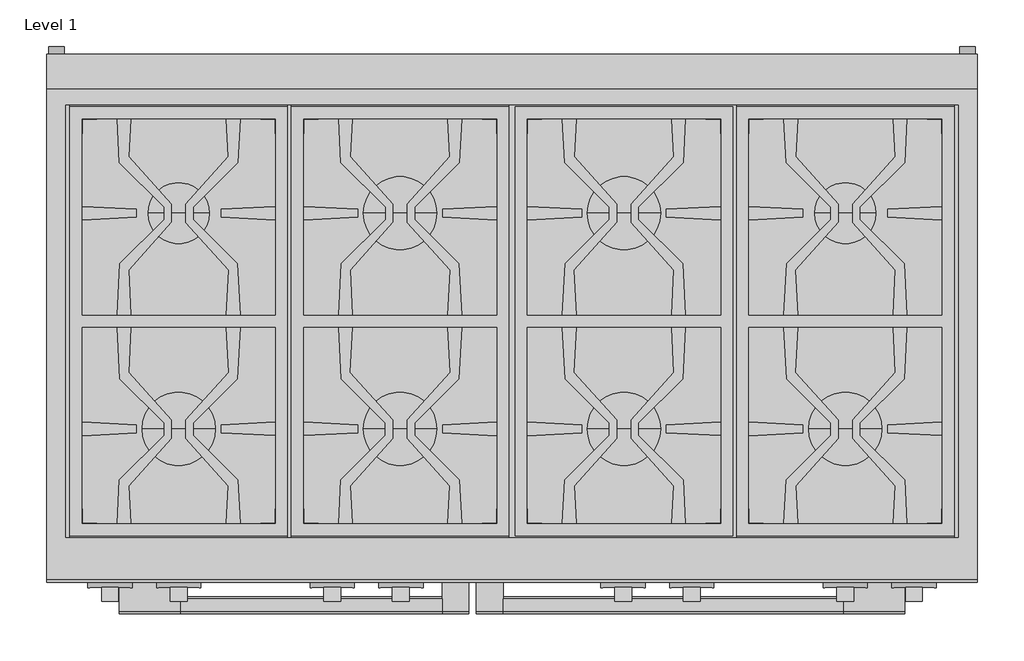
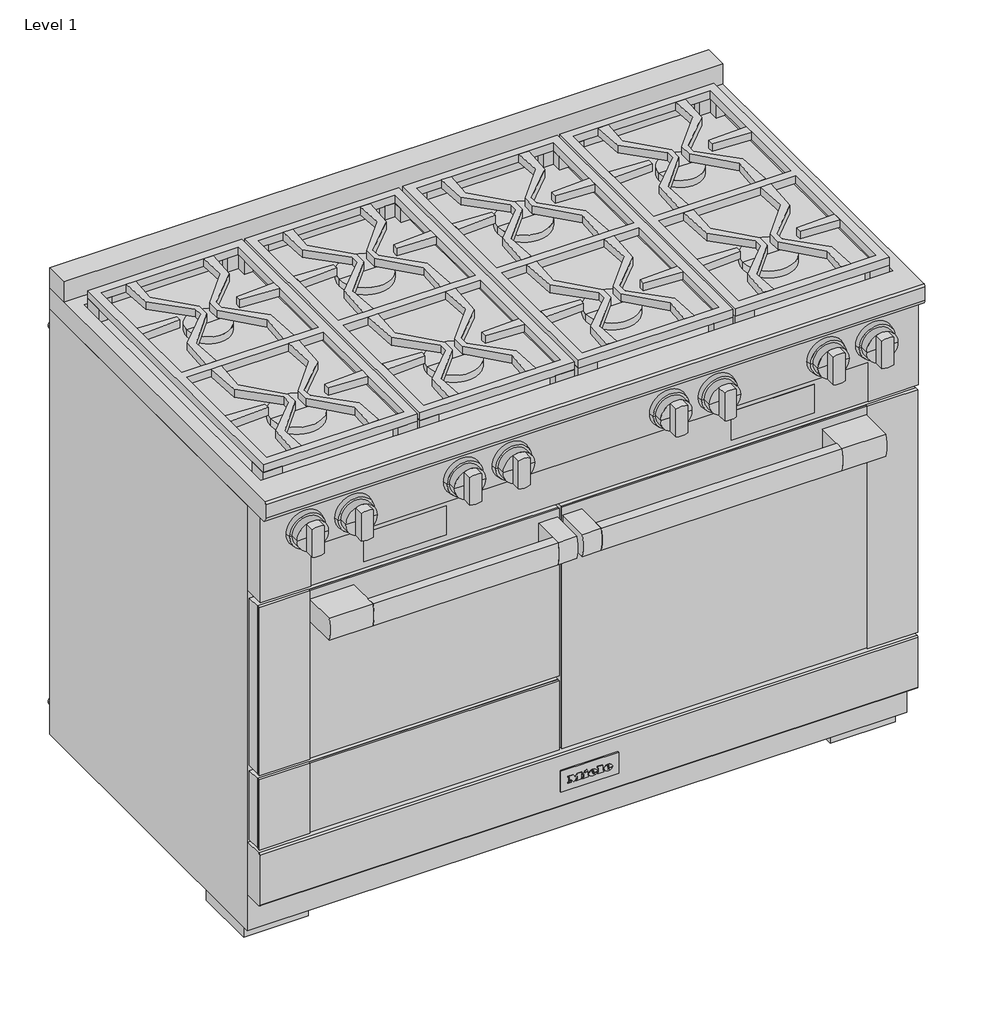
# One storey: 1 proxy.
"""IFC4 building model written with IfcOpenShell, lengths in millimetres."""

from ifc_helpers import new_model, si_unit, origin, place, context, project, spatial, transform, mapped, element, save
from components import specialty_equipment_d0c5894f, specialty_equipment_6386a448, specialty_equipment_bac1f9ac

model = new_model("IFC4")

# Units and contexts
model_context = context("Model", 3, world=origin())
ifc_project = project(units=[si_unit("LENGTHUNIT", "METRE", prefix="MILLI")], contexts=[model_context])

# Site, building, storey
site = spatial("IfcSite", under=ifc_project)
building = spatial("IfcBuilding", under=site)
storey = spatial("IfcBuildingStorey", under=building, Name="Level 1", Elevation=0.0)

# Proxy
placement = place(None, origin())
specialty_equipment_shape = specialty_equipment_d0c5894f(model_context)
specialty_equipment_2_shape = specialty_equipment_6386a448(model_context)
specialty_equipment_3_shape = specialty_equipment_bac1f9ac(model_context)
element("IfcBuildingElementProxy", 1, Name="11791680_USA_HR1954-3LP_EDST-CLS : 25195482_USA_11791680_HR1954-3LP_EDST-CLS", ObjectType="11791680_USA_HR1954-3LP_EDST-CLS : 25195482_USA_11791680_HR1954-3LP_EDST-CLS", at=placement, inside=storey, context=model_context, shape_type="MappedRepresentation", body=[
    mapped(specialty_equipment_shape, transform((0.0, 0.0, 0.0), x_axis=(1.0, 0.0, 0.0), y_axis=(0.0, 1.0, 0.0), z_axis=(0.0, 0.0, 1.0))),
    mapped(specialty_equipment_2_shape, transform((0.0, 0.0, 0.0), x_axis=(1.0, 0.0, 0.0), y_axis=(0.0, 1.0, 0.0), z_axis=(0.0, 0.0, 1.0))),
    mapped(specialty_equipment_3_shape, transform((0.0, 0.0, 0.0), x_axis=(1.0, 0.0, 0.0), y_axis=(0.0, 1.0, 0.0), z_axis=(0.0, 0.0, 1.0))),
])

save(model, "model.ifc")
